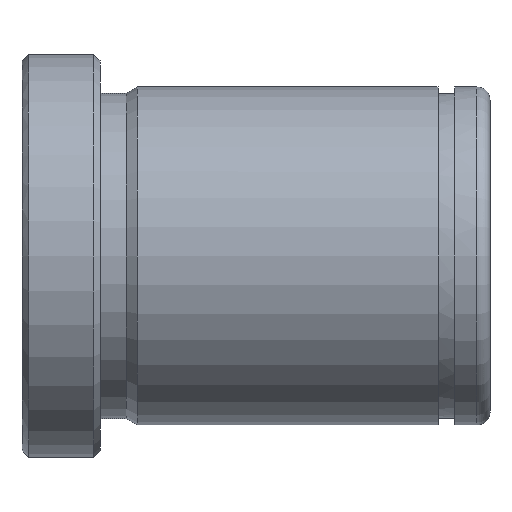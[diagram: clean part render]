
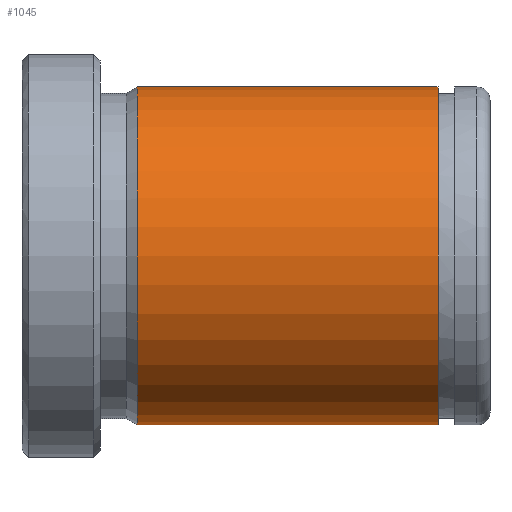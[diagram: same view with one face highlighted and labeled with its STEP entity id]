
A CAD part, front view. The second image highlights one B-rep face of the part: STEP entity #1045.
In plain terms, the highlighted cylindrical face has radius 13 mm (diameter 26 mm), a partial arc.
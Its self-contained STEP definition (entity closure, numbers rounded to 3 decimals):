
#851=CARTESIAN_POINT('Vertex',(8.866,0.,-13.)) ;
#858=CARTESIAN_POINT('Vertex',(8.866,0.,13.)) ;
#887=CARTESIAN_POINT('Axis2P3D Location',(8.866,0.,0.)) ;
#891=CARTESIAN_POINT('Vertex',(8.866,-13.,0.)) ;
#894=CARTESIAN_POINT('Axis2P3D Location',(8.866,0.,0.)) ;
#985=CARTESIAN_POINT('Line Origine',(72.,0.,13.)) ;
#989=CARTESIAN_POINT('Vertex',(32.,0.,13.)) ;
#1003=CARTESIAN_POINT('Vertex',(32.,0.,-13.)) ;
#1006=CARTESIAN_POINT('Line Origine',(72.,0.,-13.)) ;
#1020=CARTESIAN_POINT('Axis2P3D Location',(72.,0.,0.)) ;
#1025=CARTESIAN_POINT('Axis2P3D Location',(32.,0.,0.)) ;
#1029=CARTESIAN_POINT('Vertex',(32.,-13.,0.)) ;
#1032=CARTESIAN_POINT('Axis2P3D Location',(32.,0.,0.)) ;
#888=DIRECTION('Axis2P3D Direction',(1.,0.,-0.)) ;
#895=DIRECTION('Axis2P3D Direction',(1.,0.,-0.)) ;
#986=DIRECTION('Vector Direction',(-1.,0.,0.)) ;
#1007=DIRECTION('Vector Direction',(-1.,0.,0.)) ;
#1021=DIRECTION('Axis2P3D Direction',(-1.,-0.,-0.)) ;
#1022=DIRECTION('Axis2P3D XDirection',(0.,0.,-1.)) ;
#1026=DIRECTION('Axis2P3D Direction',(-1.,-0.,-0.)) ;
#1033=DIRECTION('Axis2P3D Direction',(-1.,-0.,-0.)) ;
#889=AXIS2_PLACEMENT_3D('Circle Axis2P3D',#887,#888,$) ;
#896=AXIS2_PLACEMENT_3D('Circle Axis2P3D',#894,#895,$) ;
#1023=AXIS2_PLACEMENT_3D('Cylinder Axis2P3D',#1020,#1021,#1022) ;
#1027=AXIS2_PLACEMENT_3D('Circle Axis2P3D',#1025,#1026,$) ;
#1034=AXIS2_PLACEMENT_3D('Circle Axis2P3D',#1032,#1033,$) ;
#1038=ORIENTED_EDGE('',*,*,#1010,.T.) ;
#1039=ORIENTED_EDGE('',*,*,#1031,.F.) ;
#1040=ORIENTED_EDGE('',*,*,#1036,.F.) ;
#1041=ORIENTED_EDGE('',*,*,#991,.T.) ;
#1042=ORIENTED_EDGE('',*,*,#898,.T.) ;
#1043=ORIENTED_EDGE('',*,*,#893,.T.) ;
#987=VECTOR('Line Direction',#986,1.) ;
#1008=VECTOR('Line Direction',#1007,1.) ;
#1045=ADVANCED_FACE('553-20X36',(#1044),#1024,.T.) ;
#890=CIRCLE('generated circle',#889,13.) ;
#897=CIRCLE('generated circle',#896,13.) ;
#1028=CIRCLE('generated circle',#1027,13.) ;
#1035=CIRCLE('generated circle',#1034,13.) ;
#1024=CYLINDRICAL_SURFACE('generated cylinder',#1023,13.) ;
#893=EDGE_CURVE('',#892,#852,#890,.T.) ;
#898=EDGE_CURVE('',#859,#892,#897,.T.) ;
#991=EDGE_CURVE('',#990,#859,#988,.T.) ;
#1010=EDGE_CURVE('',#852,#1004,#1009,.F.) ;
#1031=EDGE_CURVE('',#1030,#1004,#1028,.F.) ;
#1036=EDGE_CURVE('',#990,#1030,#1035,.F.) ;
#1037=EDGE_LOOP('',(#1038,#1039,#1040,#1041,#1042,#1043)) ;
#1044=FACE_OUTER_BOUND('',#1037,.T.) ;
#988=LINE('Line',#985,#987) ;
#1009=LINE('Line',#1006,#1008) ;
#852=VERTEX_POINT('',#851) ;
#859=VERTEX_POINT('',#858) ;
#892=VERTEX_POINT('',#891) ;
#990=VERTEX_POINT('',#989) ;
#1004=VERTEX_POINT('',#1003) ;
#1030=VERTEX_POINT('',#1029) ;
